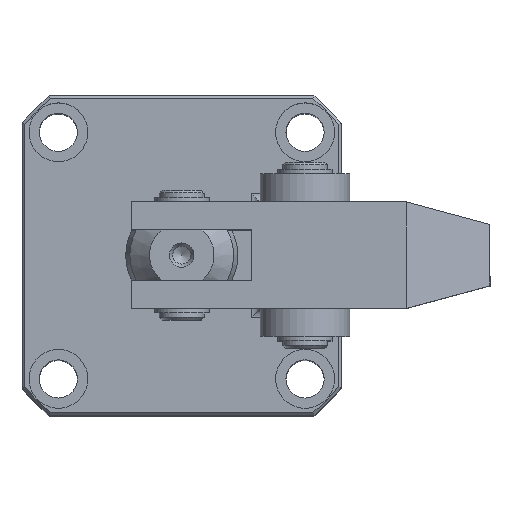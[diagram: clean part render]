
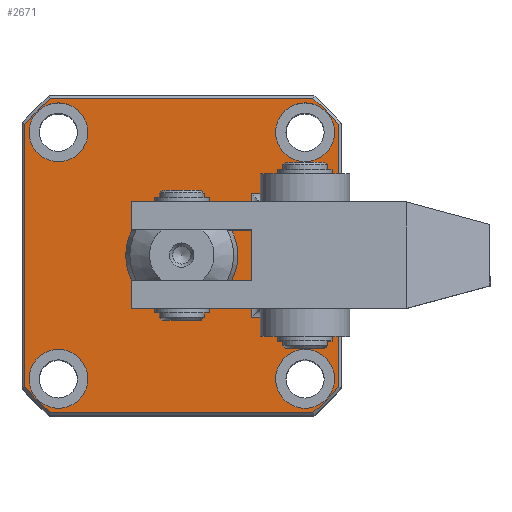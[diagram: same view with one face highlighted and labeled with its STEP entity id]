
A CAD part, top view. The second image highlights one B-rep face of the part: STEP entity #2671.
In plain terms, the highlighted planar face has unit normal (0, 0, 1).
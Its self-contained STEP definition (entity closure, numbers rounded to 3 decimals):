
#150=CIRCLE('',#2943,5.25);
#151=CIRCLE('',#2944,5.25);
#152=CIRCLE('',#2945,5.25);
#153=CIRCLE('',#2946,5.25);
#154=CIRCLE('',#2947,10.);
#155=CIRCLE('',#2948,36.5);
#156=CIRCLE('',#2949,36.5);
#157=CIRCLE('',#2950,36.5);
#158=CIRCLE('',#2951,36.5);
#289=PLANE('',#2942);
#390=LINE('',#4192,#555);
#391=LINE('',#4195,#556);
#392=LINE('',#4197,#557);
#393=LINE('',#4201,#558);
#394=LINE('',#4205,#559);
#395=LINE('',#4209,#560);
#396=LINE('',#4213,#561);
#397=LINE('',#4215,#562);
#555=VECTOR('',#3322,1000.);
#556=VECTOR('',#3323,1000.);
#557=VECTOR('',#3324,1000.);
#558=VECTOR('',#3327,1000.);
#559=VECTOR('',#3330,1000.);
#560=VECTOR('',#3333,1000.);
#561=VECTOR('',#3336,1000.);
#562=VECTOR('',#3337,1000.);
#725=ORIENTED_EDGE('',*,*,#1414,.F.);
#726=ORIENTED_EDGE('',*,*,#1415,.F.);
#727=ORIENTED_EDGE('',*,*,#1416,.F.);
#728=ORIENTED_EDGE('',*,*,#1417,.F.);
#729=ORIENTED_EDGE('',*,*,#1418,.T.);
#730=ORIENTED_EDGE('',*,*,#1419,.T.);
#731=ORIENTED_EDGE('',*,*,#1420,.T.);
#732=ORIENTED_EDGE('',*,*,#1421,.T.);
#733=ORIENTED_EDGE('',*,*,#1422,.T.);
#734=ORIENTED_EDGE('',*,*,#1423,.T.);
#735=ORIENTED_EDGE('',*,*,#1424,.T.);
#736=ORIENTED_EDGE('',*,*,#1425,.T.);
#737=ORIENTED_EDGE('',*,*,#1426,.T.);
#738=ORIENTED_EDGE('',*,*,#1427,.T.);
#739=ORIENTED_EDGE('',*,*,#1428,.T.);
#740=ORIENTED_EDGE('',*,*,#1429,.T.);
#741=ORIENTED_EDGE('',*,*,#1430,.T.);
#1414=EDGE_CURVE('',#1758,#1758,#150,.T.);
#1415=EDGE_CURVE('',#1759,#1759,#151,.T.);
#1416=EDGE_CURVE('',#1760,#1760,#152,.T.);
#1417=EDGE_CURVE('',#1761,#1761,#153,.T.);
#1418=EDGE_CURVE('',#1762,#1762,#154,.T.);
#1419=EDGE_CURVE('',#1763,#1764,#390,.T.);
#1420=EDGE_CURVE('',#1764,#1765,#391,.T.);
#1421=EDGE_CURVE('',#1765,#1766,#392,.T.);
#1422=EDGE_CURVE('',#1766,#1767,#155,.T.);
#1423=EDGE_CURVE('',#1767,#1768,#393,.T.);
#1424=EDGE_CURVE('',#1768,#1769,#156,.T.);
#1425=EDGE_CURVE('',#1769,#1770,#394,.T.);
#1426=EDGE_CURVE('',#1770,#1771,#157,.T.);
#1427=EDGE_CURVE('',#1771,#1772,#395,.T.);
#1428=EDGE_CURVE('',#1772,#1773,#158,.T.);
#1429=EDGE_CURVE('',#1773,#1774,#396,.T.);
#1430=EDGE_CURVE('',#1774,#1763,#397,.T.);
#1758=VERTEX_POINT('',#4183);
#1759=VERTEX_POINT('',#4185);
#1760=VERTEX_POINT('',#4187);
#1761=VERTEX_POINT('',#4189);
#1762=VERTEX_POINT('',#4191);
#1763=VERTEX_POINT('',#4193);
#1764=VERTEX_POINT('',#4194);
#1765=VERTEX_POINT('',#4196);
#1766=VERTEX_POINT('',#4198);
#1767=VERTEX_POINT('',#4200);
#1768=VERTEX_POINT('',#4202);
#1769=VERTEX_POINT('',#4204);
#1770=VERTEX_POINT('',#4206);
#1771=VERTEX_POINT('',#4208);
#1772=VERTEX_POINT('',#4210);
#1773=VERTEX_POINT('',#4212);
#1774=VERTEX_POINT('',#4214);
#2018=EDGE_LOOP('',(#725));
#2019=EDGE_LOOP('',(#726));
#2020=EDGE_LOOP('',(#727));
#2021=EDGE_LOOP('',(#728));
#2022=EDGE_LOOP('',(#729));
#2023=EDGE_LOOP('',(#730,#731,#732,#733,#734,#735,#736,#737,#738,#739,#740,
#741));
#2311=FACE_BOUND('',#2018,.T.);
#2312=FACE_BOUND('',#2019,.T.);
#2313=FACE_BOUND('',#2020,.T.);
#2314=FACE_BOUND('',#2021,.T.);
#2315=FACE_BOUND('',#2022,.T.);
#2316=FACE_BOUND('',#2023,.T.);
#2671=ADVANCED_FACE('',(#2311,#2312,#2313,#2314,#2315,#2316),#289,.T.);
#2942=AXIS2_PLACEMENT_3D('',#4181,#3310,#3311);
#2943=AXIS2_PLACEMENT_3D('',#4182,#3312,#3313);
#2944=AXIS2_PLACEMENT_3D('',#4184,#3314,#3315);
#2945=AXIS2_PLACEMENT_3D('',#4186,#3316,#3317);
#2946=AXIS2_PLACEMENT_3D('',#4188,#3318,#3319);
#2947=AXIS2_PLACEMENT_3D('',#4190,#3320,#3321);
#2948=AXIS2_PLACEMENT_3D('',#4199,#3325,#3326);
#2949=AXIS2_PLACEMENT_3D('',#4203,#3328,#3329);
#2950=AXIS2_PLACEMENT_3D('',#4207,#3331,#3332);
#2951=AXIS2_PLACEMENT_3D('',#4211,#3334,#3335);
#3310=DIRECTION('',(0.,0.,1.));
#3311=DIRECTION('',(0.,-1.,0.));
#3312=DIRECTION('',(0.,0.,1.));
#3313=DIRECTION('',(1.,0.,0.));
#3314=DIRECTION('',(0.,0.,1.));
#3315=DIRECTION('',(1.,0.,0.));
#3316=DIRECTION('',(0.,0.,1.));
#3317=DIRECTION('',(1.,0.,0.));
#3318=DIRECTION('',(0.,0.,1.));
#3319=DIRECTION('',(1.,0.,0.));
#3320=DIRECTION('',(0.,0.,-1.));
#3321=DIRECTION('',(0.,-1.,0.));
#3322=DIRECTION('',(0.,1.,0.));
#3323=DIRECTION('',(1.,0.,0.));
#3324=DIRECTION('',(0.,1.,0.));
#3325=DIRECTION('',(0.,0.,1.));
#3326=DIRECTION('',(0.,-1.,0.));
#3327=DIRECTION('',(-1.,0.,0.));
#3328=DIRECTION('',(0.,0.,1.));
#3329=DIRECTION('',(0.,-1.,0.));
#3330=DIRECTION('',(0.,-1.,0.));
#3331=DIRECTION('',(0.,0.,1.));
#3332=DIRECTION('',(0.,-1.,0.));
#3333=DIRECTION('',(1.,0.,0.));
#3334=DIRECTION('',(0.,0.,1.));
#3335=DIRECTION('',(0.,-1.,0.));
#3336=DIRECTION('',(0.,1.,0.));
#3337=DIRECTION('',(-1.,0.,0.));
#4181=CARTESIAN_POINT('',(0.,0.,85.));
#4182=CARTESIAN_POINT('',(-22.,22.,85.));
#4183=CARTESIAN_POINT('',(-16.75,22.,85.));
#4184=CARTESIAN_POINT('',(-22.,-22.,85.));
#4185=CARTESIAN_POINT('',(-16.75,-22.,85.));
#4186=CARTESIAN_POINT('',(22.,-22.,85.));
#4187=CARTESIAN_POINT('',(27.25,-22.,85.));
#4188=CARTESIAN_POINT('',(22.,22.,85.));
#4189=CARTESIAN_POINT('',(27.25,22.,85.));
#4190=CARTESIAN_POINT('',(0.,0.,85.));
#4191=CARTESIAN_POINT('',(0.,-10.,85.));
#4192=CARTESIAN_POINT('',(12.5,9.5,85.));
#4193=CARTESIAN_POINT('',(12.5,-11.,85.));
#4194=CARTESIAN_POINT('',(12.5,11.,85.));
#4195=CARTESIAN_POINT('',(28.,11.,85.));
#4196=CARTESIAN_POINT('',(28.,11.,85.));
#4197=CARTESIAN_POINT('',(28.,0.,85.));
#4198=CARTESIAN_POINT('',(28.,23.415,85.));
#4199=CARTESIAN_POINT('',(0.,0.,85.));
#4200=CARTESIAN_POINT('',(23.415,28.,85.));
#4201=CARTESIAN_POINT('',(0.,28.,85.));
#4202=CARTESIAN_POINT('',(-23.415,28.,85.));
#4203=CARTESIAN_POINT('',(0.,0.,85.));
#4204=CARTESIAN_POINT('',(-28.,23.415,85.));
#4205=CARTESIAN_POINT('',(-28.,0.,85.));
#4206=CARTESIAN_POINT('',(-28.,-23.415,85.));
#4207=CARTESIAN_POINT('',(0.,0.,85.));
#4208=CARTESIAN_POINT('',(-23.415,-28.,85.));
#4209=CARTESIAN_POINT('',(0.,-28.,85.));
#4210=CARTESIAN_POINT('',(23.415,-28.,85.));
#4211=CARTESIAN_POINT('',(0.,0.,85.));
#4212=CARTESIAN_POINT('',(28.,-23.415,85.));
#4213=CARTESIAN_POINT('',(28.,0.,85.));
#4214=CARTESIAN_POINT('',(28.,-11.,85.));
#4215=CARTESIAN_POINT('',(0.,-11.,85.));
